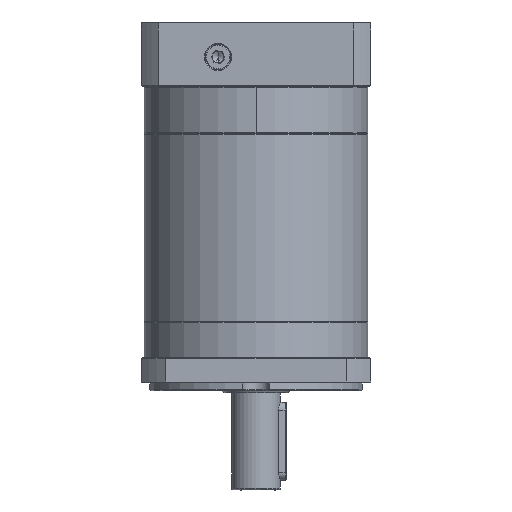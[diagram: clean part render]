
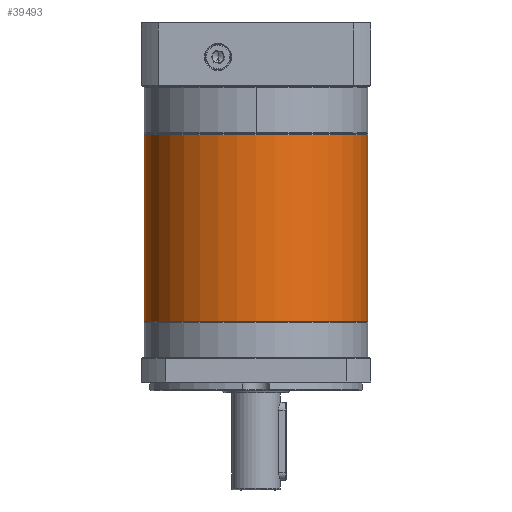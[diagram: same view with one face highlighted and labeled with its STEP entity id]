
A CAD part, front view. The second image highlights one B-rep face of the part: STEP entity #39493.
In plain terms, the highlighted cylindrical face has radius 57.5 mm (diameter 115 mm), a partial arc.
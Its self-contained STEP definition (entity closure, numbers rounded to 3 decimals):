
#556 = ORIENTED_EDGE ( 'NONE', *, *, #2908, .F. ) ;
#1550 = CARTESIAN_POINT ( 'NONE',  ( 106.159, 66.552, -158.308 ) ) ;
#2908 = EDGE_CURVE ( 'NONE', #20918, #113493, #116977, .T. ) ;
#5210 = EDGE_CURVE ( 'NONE', #10519, #107088, #59929, .T. ) ;
#6166 = CARTESIAN_POINT ( 'NONE',  ( 48.659, 66.552, -62.096 ) ) ;
#6358 = CARTESIAN_POINT ( 'NONE',  ( 106.159, 66.552, -62.096 ) ) ;
#8203 = DIRECTION ( 'NONE',  ( -1., 0., 0. ) ) ;
#9672 = DIRECTION ( 'NONE',  ( 0., 0., -1. ) ) ;
#9891 = CARTESIAN_POINT ( 'NONE',  ( -8.841, 66.552, -62.596 ) ) ;
#10519 = VERTEX_POINT ( 'NONE', #9891 ) ;
#13627 = CARTESIAN_POINT ( 'NONE',  ( -8.841, 66.552, -158.308 ) ) ;
#20844 = CARTESIAN_POINT ( 'NONE',  ( -8.841, 66.552, -62.096 ) ) ;
#20918 = VERTEX_POINT ( 'NONE', #33510 ) ;
#27116 = DIRECTION ( 'NONE',  ( -1., 0., 0. ) ) ;
#27816 = CARTESIAN_POINT ( 'NONE',  ( 48.659, 66.552, -158.308 ) ) ;
#33510 = CARTESIAN_POINT ( 'NONE',  ( 106.159, 66.552, -62.596 ) ) ;
#39493 = ADVANCED_FACE ( 'NONE', ( #107047 ), #52221, .T. ) ;
#41950 = DIRECTION ( 'NONE',  ( -1., 0., 0. ) ) ;
#47421 = DIRECTION ( 'NONE',  ( 0., 0., -1. ) ) ;
#47719 = EDGE_CURVE ( 'NONE', #107088, #113493, #117303, .T. ) ;
#48923 = CIRCLE ( 'NONE', #57496, 57.5 ) ;
#49756 = CIRCLE ( 'NONE', #51281, 57.5 ) ;
#51281 = AXIS2_PLACEMENT_3D ( 'NONE', #75125, #97223, #117368 ) ;
#52221 = CYLINDRICAL_SURFACE ( 'NONE', #110840, 57.5 ) ;
#57496 = AXIS2_PLACEMENT_3D ( 'NONE', #92661, #93112, #41950 ) ;
#59083 = DIRECTION ( 'NONE',  ( 0., 0., 1. ) ) ;
#59929 = LINE ( 'NONE', #20844, #122535 ) ;
#73222 = ORIENTED_EDGE ( 'NONE', *, *, #108710, .T. ) ;
#74155 = AXIS2_PLACEMENT_3D ( 'NONE', #27816, #59083, #8203 ) ;
#75125 = CARTESIAN_POINT ( 'NONE',  ( 48.659, 66.552, -62.596 ) ) ;
#77494 = ORIENTED_EDGE ( 'NONE', *, *, #5210, .T. ) ;
#78545 = EDGE_CURVE ( 'NONE', #94855, #10519, #48923, .T. ) ;
#85638 = ORIENTED_EDGE ( 'NONE', *, *, #78545, .T. ) ;
#91460 = CARTESIAN_POINT ( 'NONE',  ( 48.659, 9.052, -62.596 ) ) ;
#92661 = CARTESIAN_POINT ( 'NONE',  ( 48.659, 66.552, -62.596 ) ) ;
#93112 = DIRECTION ( 'NONE',  ( 0., 0., -1. ) ) ;
#94855 = VERTEX_POINT ( 'NONE', #91460 ) ;
#97223 = DIRECTION ( 'NONE',  ( 0., 0., -1. ) ) ;
#97840 = VECTOR ( 'NONE', #47421, 1000. ) ;
#107047 = FACE_OUTER_BOUND ( 'NONE', #119550, .T. ) ;
#107088 = VERTEX_POINT ( 'NONE', #13627 ) ;
#107882 = DIRECTION ( 'NONE',  ( 0., 0., -1. ) ) ;
#108710 = EDGE_CURVE ( 'NONE', #20918, #94855, #49756, .T. ) ;
#110840 = AXIS2_PLACEMENT_3D ( 'NONE', #6166, #107882, #27116 ) ;
#113493 = VERTEX_POINT ( 'NONE', #1550 ) ;
#116977 = LINE ( 'NONE', #6358, #97840 ) ;
#117303 = CIRCLE ( 'NONE', #74155, 57.5 ) ;
#117368 = DIRECTION ( 'NONE',  ( -1., 0., 0. ) ) ;
#119550 = EDGE_LOOP ( 'NONE', ( #556, #73222, #85638, #77494, #132971 ) ) ;
#122535 = VECTOR ( 'NONE', #9672, 1000. ) ;
#132971 = ORIENTED_EDGE ( 'NONE', *, *, #47719, .T. ) ;
